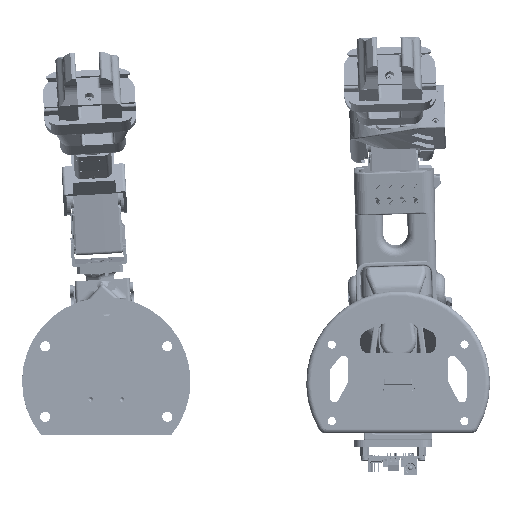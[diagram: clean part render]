
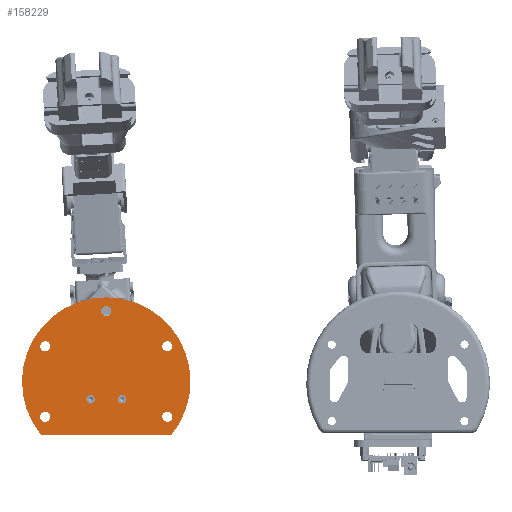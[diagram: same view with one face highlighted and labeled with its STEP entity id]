
A CAD part, left-side view. The second image highlights one B-rep face of the part: STEP entity #158229.
In plain terms, the highlighted planar face has unit normal (-1, 0, 0) as drawn and (0, 1, 0) by its records, which use the part's own axes.
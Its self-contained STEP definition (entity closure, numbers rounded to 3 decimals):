
#6768=FACE_BOUND('',#24169,.T.);
#6769=FACE_BOUND('',#24170,.T.);
#6770=FACE_BOUND('',#24171,.T.);
#6771=FACE_BOUND('',#24172,.T.);
#6772=FACE_BOUND('',#24173,.T.);
#6773=FACE_BOUND('',#24174,.T.);
#6774=FACE_BOUND('',#24175,.T.);
#7840=PLANE('',#170260);
#15434=FACE_OUTER_BOUND('',#24168,.T.);
#24168=EDGE_LOOP('',(#110597,#110598));
#24169=EDGE_LOOP('',(#110599));
#24170=EDGE_LOOP('',(#110600));
#24171=EDGE_LOOP('',(#110601));
#24172=EDGE_LOOP('',(#110602));
#24173=EDGE_LOOP('',(#110603));
#24174=EDGE_LOOP('',(#110604));
#24175=EDGE_LOOP('',(#110605));
#33736=LINE('',#228948,#49809);
#49809=VECTOR('',#184699,10.);
#65800=CIRCLE('',#170156,3.3);
#65801=CIRCLE('',#170158,3.3);
#65802=CIRCLE('',#170160,3.3);
#65803=CIRCLE('',#170162,3.3);
#65804=CIRCLE('',#170164,3.3);
#65808=CIRCLE('',#170171,2.75);
#65812=CIRCLE('',#170179,2.75);
#65838=CIRCLE('',#170259,55.);
#70570=VERTEX_POINT('',#228700);
#70571=VERTEX_POINT('',#228704);
#70572=VERTEX_POINT('',#228708);
#70573=VERTEX_POINT('',#228712);
#70574=VERTEX_POINT('',#228716);
#70579=VERTEX_POINT('',#228730);
#70584=VERTEX_POINT('',#228746);
#70637=VERTEX_POINT('',#228945);
#70638=VERTEX_POINT('',#228947);
#86318=EDGE_CURVE('',#70570,#70570,#65800,.T.);
#86320=EDGE_CURVE('',#70571,#70571,#65801,.T.);
#86322=EDGE_CURVE('',#70572,#70572,#65802,.T.);
#86324=EDGE_CURVE('',#70573,#70573,#65803,.T.);
#86326=EDGE_CURVE('',#70574,#70574,#65804,.T.);
#86332=EDGE_CURVE('',#70579,#70579,#65808,.T.);
#86339=EDGE_CURVE('',#70584,#70584,#65812,.T.);
#86425=EDGE_CURVE('',#70638,#70637,#33736,.T.);
#86436=EDGE_CURVE('',#70637,#70638,#65838,.T.);
#110597=ORIENTED_EDGE('',*,*,#86425,.T.);
#110598=ORIENTED_EDGE('',*,*,#86436,.T.);
#110599=ORIENTED_EDGE('',*,*,#86318,.T.);
#110600=ORIENTED_EDGE('',*,*,#86320,.T.);
#110601=ORIENTED_EDGE('',*,*,#86322,.T.);
#110602=ORIENTED_EDGE('',*,*,#86324,.T.);
#110603=ORIENTED_EDGE('',*,*,#86326,.T.);
#110604=ORIENTED_EDGE('',*,*,#86332,.T.);
#110605=ORIENTED_EDGE('',*,*,#86339,.T.);
#158229=ADVANCED_FACE('',(#15434,#6768,#6769,#6770,#6771,#6772,#6773,#6774),
#7840,.T.);
#170156=AXIS2_PLACEMENT_3D('',#228701,#184455,#184456);
#170158=AXIS2_PLACEMENT_3D('',#228705,#184460,#184461);
#170160=AXIS2_PLACEMENT_3D('',#228709,#184465,#184466);
#170162=AXIS2_PLACEMENT_3D('',#228713,#184470,#184471);
#170164=AXIS2_PLACEMENT_3D('',#228717,#184475,#184476);
#170171=AXIS2_PLACEMENT_3D('',#228731,#184491,#184492);
#170179=AXIS2_PLACEMENT_3D('',#228747,#184510,#184511);
#170259=AXIS2_PLACEMENT_3D('',#228969,#184721,#184722);
#170260=AXIS2_PLACEMENT_3D('',#228970,#184723,#184724);
#184455=DIRECTION('center_axis',(0.,-1.,0.));
#184456=DIRECTION('ref_axis',(0.5,0.,0.866));
#184460=DIRECTION('center_axis',(0.,-1.,0.));
#184461=DIRECTION('ref_axis',(-0.5,0.,0.866));
#184465=DIRECTION('center_axis',(0.,-1.,0.));
#184466=DIRECTION('ref_axis',(-0.5,0.,-0.866));
#184470=DIRECTION('center_axis',(0.,-1.,0.));
#184471=DIRECTION('ref_axis',(0.5,0.,-0.866));
#184475=DIRECTION('center_axis',(0.,-1.,0.));
#184476=DIRECTION('ref_axis',(1.,0.,0.));
#184491=DIRECTION('center_axis',(0.,-1.,0.));
#184492=DIRECTION('ref_axis',(1.,0.,0.));
#184510=DIRECTION('center_axis',(0.,-1.,0.));
#184511=DIRECTION('ref_axis',(1.,0.,0.));
#184699=DIRECTION('',(1.,0.,0.));
#184721=DIRECTION('center_axis',(0.,1.,0.));
#184722=DIRECTION('ref_axis',(1.,0.,0.));
#184723=DIRECTION('center_axis',(0.,1.,0.));
#184724=DIRECTION('ref_axis',(0.,0.,1.));
#228700=CARTESIAN_POINT('',(43.993,73.,-50.858));
#228701=CARTESIAN_POINT('Origin',(45.643,73.,-48.));
#228704=CARTESIAN_POINT('',(47.293,73.,-4.858));
#228705=CARTESIAN_POINT('Origin',(45.643,73.,-2.));
#228708=CARTESIAN_POINT('',(-32.382,73.,0.858));
#228709=CARTESIAN_POINT('Origin',(-34.032,73.,-2.));
#228712=CARTESIAN_POINT('',(-35.682,73.,-45.142));
#228713=CARTESIAN_POINT('Origin',(-34.032,73.,-48.));
#228716=CARTESIAN_POINT('',(2.506,73.,-71.));
#228717=CARTESIAN_POINT('Origin',(5.806,73.,-71.));
#228730=CARTESIAN_POINT('',(13.306,73.,-13.4));
#228731=CARTESIAN_POINT('Origin',(16.056,73.,-13.4));
#228746=CARTESIAN_POINT('',(-7.194,73.,-13.4));
#228747=CARTESIAN_POINT('Origin',(-4.444,73.,-13.4));
#228945=CARTESIAN_POINT('',(48.232,73.,10.));
#228947=CARTESIAN_POINT('',(-36.621,73.,10.));
#228948=CARTESIAN_POINT('',(-36.621,73.,10.));
#228969=CARTESIAN_POINT('Origin',(5.806,73.,-25.));
#228970=CARTESIAN_POINT('Origin',(5.806,73.,-35.));
